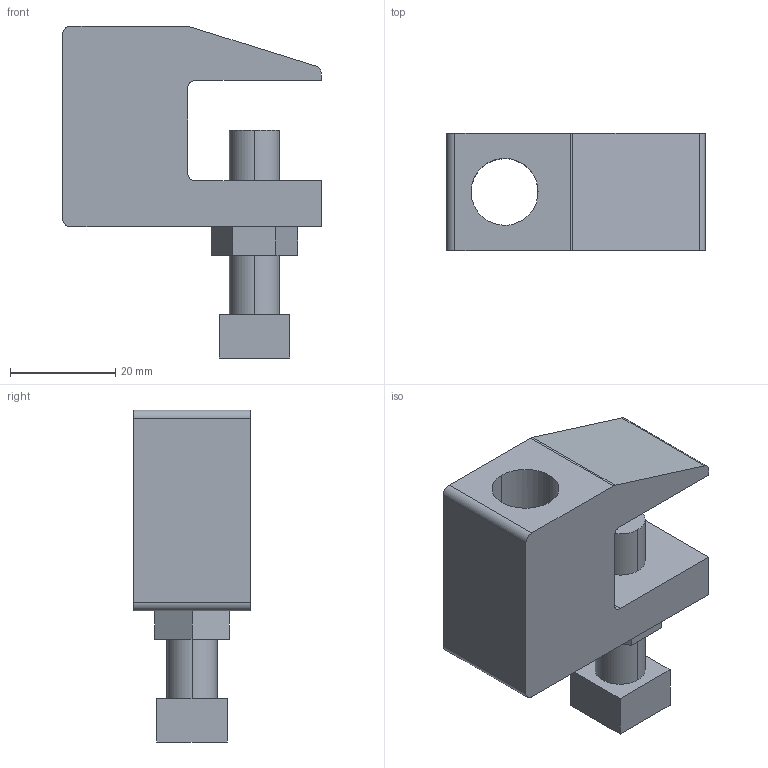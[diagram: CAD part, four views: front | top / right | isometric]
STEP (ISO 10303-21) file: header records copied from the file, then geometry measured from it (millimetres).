
FILE_DESCRIPTION(('TurboCAD Mac Pro'),'Build 980');
FILE_NAME('P2898-50.stp',' ',(''),(''),'ACIS Interop','IMSI','TurboCAD Mac Pro BY IMSI, INCORPORATED');
FILE_SCHEMA(('automotive_design'));
Length unit declared in the file: inch
Products named in the file (3): 1; 2; 3
Bounding box: 49.1 x 22.23 x 62.99 mm (x, y, z)
Volume: 28037.2 mm3; surface area: 11205.5 mm2
Topology: 3 solids, 3 shells, 44 faces, 111 edges, 74 vertices
Faces by surface type: plane 26, bspline 17, cylinder 1
Entity records: 1829 total; most frequent: CARTESIAN_POINT 453, ORIENTED_EDGE 222, DIRECTION 139, EDGE_CURVE 111, LINE 75, VECTOR 75, VERTEX_POINT 74, EDGE_LOOP 49
